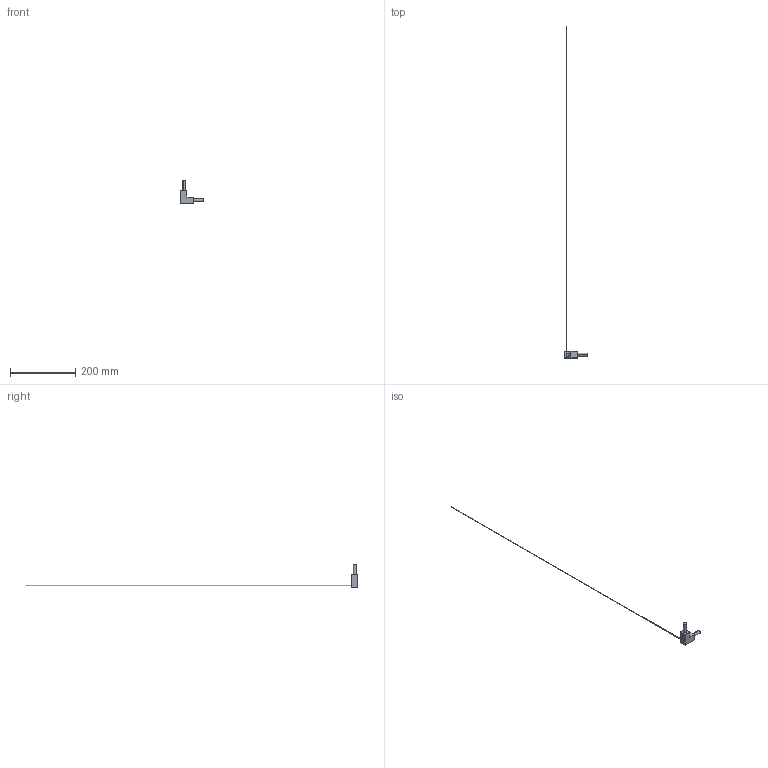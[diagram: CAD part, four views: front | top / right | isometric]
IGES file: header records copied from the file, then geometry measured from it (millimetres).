
Start section: SolidWorks IGES file using analytic representation for surfaces
Global section: file name: C:\Users\tungari.NEMOLIGHTING\Desktop\3D\SYSTEMS\3D_LINESCAPES_SYSTEMS\3D_LINESCAPES_HORIZ_ANGLE\3D_LINESCAPES_HORIZ_ANGLE.IGS; native system: SolidWorks 2016; preprocessor: SolidWorks 2016; author: tungari; date: 180302.164752; units: millimetre
Bounding box: 71 x 1015 x 71 mm (x, y, z)
Surface area: 11615.3 mm2 (no closed solid volume)
Topology: 0 solids, 0 shells, 20 faces, 220 edges, 220 vertices
Faces by surface type: bspline 14, revolution 6
